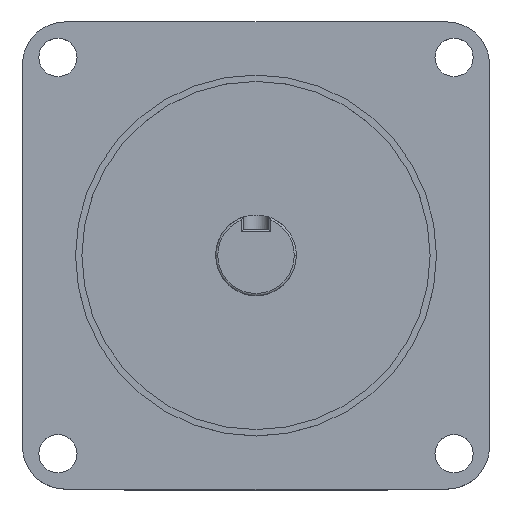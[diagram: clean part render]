
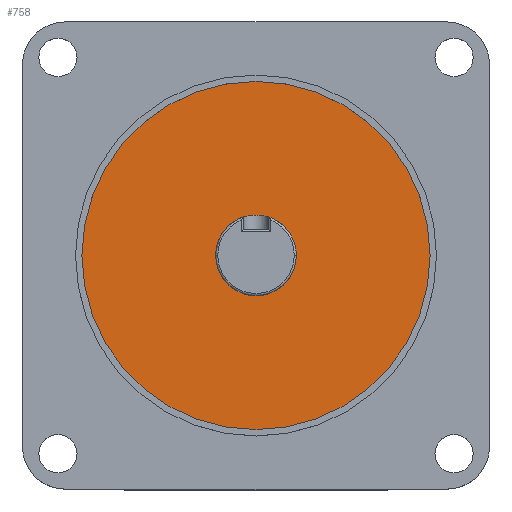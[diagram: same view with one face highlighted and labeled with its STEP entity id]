
A CAD part, top view. The second image highlights one B-rep face of the part: STEP entity #758.
In plain terms, the highlighted planar face has unit normal (0, 0, 1).
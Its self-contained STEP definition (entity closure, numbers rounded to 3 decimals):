
#68 = DIRECTION ( 'NONE',  ( 0., 0., 1. ) ) ;
#114 = DIRECTION ( 'NONE',  ( 1., 0., 0. ) ) ;
#117 = CIRCLE ( 'NONE', #819, 41. ) ;
#212 = AXIS2_PLACEMENT_3D ( 'NONE', #2571, #1320, #114 ) ;
#389 = EDGE_CURVE ( 'NONE', #1691, #637, #1684, .T. ) ;
#396 = CARTESIAN_POINT ( 'NONE',  ( 0., 0., 0. ) ) ;
#409 = ORIENTED_EDGE ( 'NONE', *, *, #804, .T. ) ;
#433 = AXIS2_PLACEMENT_3D ( 'NONE', #2188, #2408, #1148 ) ;
#585 = CARTESIAN_POINT ( 'NONE',  ( 0., 0., 0. ) ) ;
#615 = DIRECTION ( 'NONE',  ( -1., 0., 0. ) ) ;
#634 = ORIENTED_EDGE ( 'NONE', *, *, #1790, .T. ) ;
#637 = VERTEX_POINT ( 'NONE', #1239 ) ;
#657 = AXIS2_PLACEMENT_3D ( 'NONE', #795, #748, #615 ) ;
#717 = EDGE_CURVE ( 'NONE', #637, #1691, #2555, .T. ) ;
#747 = PLANE ( 'NONE',  #433 ) ;
#748 = DIRECTION ( 'NONE',  ( 0., 0., 1. ) ) ;
#758 = ADVANCED_FACE ( 'NONE', ( #771, #2432 ), #747, .F. ) ;
#769 = DIRECTION ( 'NONE',  ( 1., 0., 0. ) ) ;
#771 = FACE_OUTER_BOUND ( 'NONE', #960, .T. ) ;
#795 = CARTESIAN_POINT ( 'NONE',  ( 0., 0., 0. ) ) ;
#804 = EDGE_CURVE ( 'NONE', #1493, #1636, #117, .T. ) ;
#819 = AXIS2_PLACEMENT_3D ( 'NONE', #585, #2008, #769 ) ;
#960 = EDGE_LOOP ( 'NONE', ( #634, #409 ) ) ;
#1120 = ORIENTED_EDGE ( 'NONE', *, *, #389, .F. ) ;
#1148 = DIRECTION ( 'NONE',  ( -1., 0., 0. ) ) ;
#1239 = CARTESIAN_POINT ( 'NONE',  ( -9.5, 0., 0. ) ) ;
#1320 = DIRECTION ( 'NONE',  ( 0., 0., 1. ) ) ;
#1493 = VERTEX_POINT ( 'NONE', #2642 ) ;
#1636 = VERTEX_POINT ( 'NONE', #1877 ) ;
#1684 = CIRCLE ( 'NONE', #657, 9.5 ) ;
#1691 = VERTEX_POINT ( 'NONE', #2323 ) ;
#1790 = EDGE_CURVE ( 'NONE', #1636, #1493, #1855, .T. ) ;
#1791 = DIRECTION ( 'NONE',  ( -1., 0., 0. ) ) ;
#1855 = CIRCLE ( 'NONE', #212, 41. ) ;
#1877 = CARTESIAN_POINT ( 'NONE',  ( -41., 0., 0. ) ) ;
#2008 = DIRECTION ( 'NONE',  ( 0., 0., 1. ) ) ;
#2115 = AXIS2_PLACEMENT_3D ( 'NONE', #396, #68, #1791 ) ;
#2188 = CARTESIAN_POINT ( 'NONE',  ( -45., -45., 0. ) ) ;
#2323 = CARTESIAN_POINT ( 'NONE',  ( 9.5, 0., 0. ) ) ;
#2408 = DIRECTION ( 'NONE',  ( 0., 0., -1. ) ) ;
#2432 = FACE_BOUND ( 'NONE', #2566, .T. ) ;
#2555 = CIRCLE ( 'NONE', #2115, 9.5 ) ;
#2560 = ORIENTED_EDGE ( 'NONE', *, *, #717, .F. ) ;
#2566 = EDGE_LOOP ( 'NONE', ( #2560, #1120 ) ) ;
#2571 = CARTESIAN_POINT ( 'NONE',  ( 0., 0., 0. ) ) ;
#2642 = CARTESIAN_POINT ( 'NONE',  ( 41., 0., 0. ) ) ;
